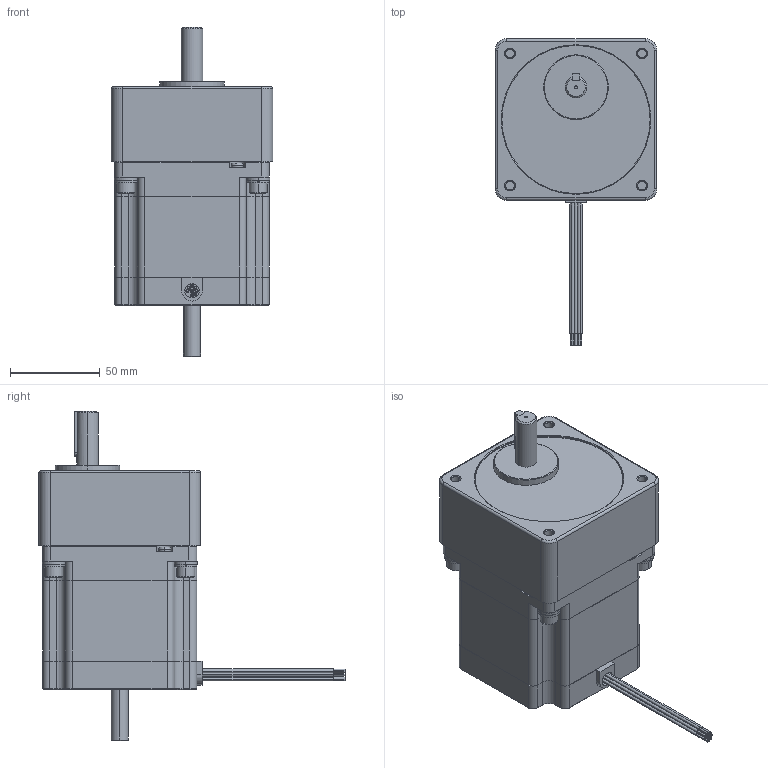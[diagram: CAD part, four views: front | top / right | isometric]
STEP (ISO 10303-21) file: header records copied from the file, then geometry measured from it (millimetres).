
FILE_DESCRIPTION (( 'STEP AP214' ), '1' );
FILE_NAME ('34YSG108D-LW8-R12.5.STEP', '2010-06-18T16:33:57', ( 'Tim Raines' ), ( 'Anaheim Automation' ), 'SwSTEP 2.0', 'SolidWorks 2010', '' );
FILE_SCHEMA (( 'AUTOMOTIVE_DESIGN' ));
Length unit declared in the file: millimetre
Products named in the file (6): 34SG Series_34SG1; 34YSG Motor_34YSG108D-LW8; Flat Washer Narrow_AM_B18.22M - Plain washer, 6 mm, narrow; Lock Washer Spring Regular_AI_Regular LW 0.25; Socket Head Cap Screw_AM_B18.3.1M - 6 x 1.0 x 20 Hex SHCS -- 20NHX; 34YSG108D-LW8-R12.5
Assembly tree (14 placements, depth 2):
  34YSG108D-LW8-R12.5
    Socket Head Cap Screw_AM_B18.3.1M - 6 x 1.0 x 20 Hex SHCS -- 20NHX  x4
    34SG Series_34SG1
    34YSG Motor_34YSG108D-LW8
    Flat Washer Narrow_AM_B18.22M - Plain washer, 6 mm, narrow  x4
    Lock Washer Spring Regular_AI_Regular LW 0.25  x4
Bounding box: 89.92 x 170.43 x 183.46 mm (x, y, z)
Volume: 870348.5 mm3; surface area: 90501.4 mm2
Topology: 14 solids, 14 shells, 587 faces, 1391 edges, 862 vertices
Faces by surface type: plane 272, cylinder 194, cone 101, torus 20
Entity records: 18773 total; most frequent: CARTESIAN_POINT 2631, DIRECTION 2475, ORIENTED_EDGE 2262, EDGE_CURVE 1131, AXIS2_PLACEMENT_3D 919, VERTEX_POINT 715, LINE 637, VECTOR 637
